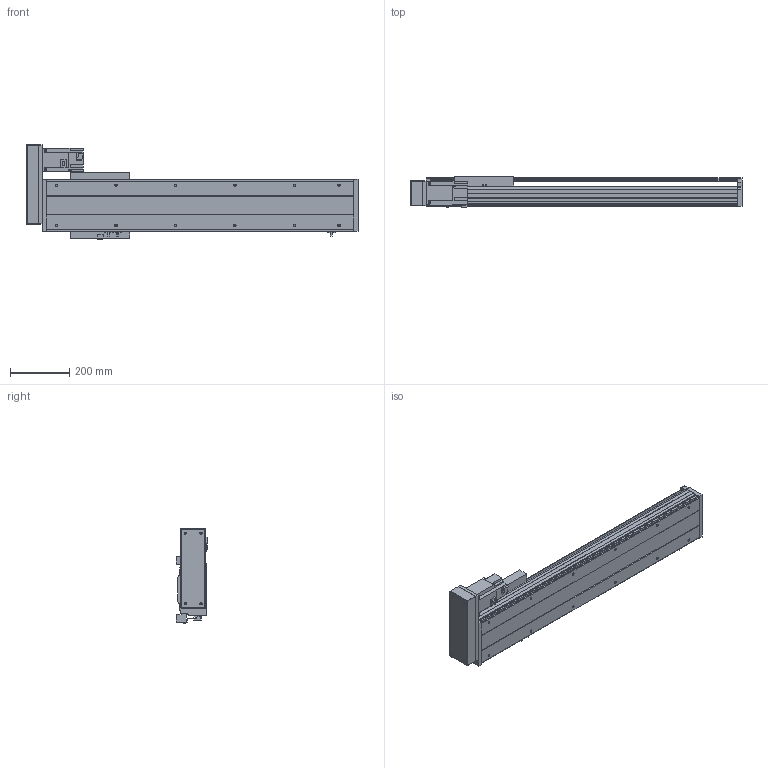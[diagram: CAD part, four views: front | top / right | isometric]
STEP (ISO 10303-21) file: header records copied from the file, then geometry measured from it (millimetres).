
FILE_DESCRIPTION(/* description */ ('STEP AP214'),/* implementation_level */ '2;1');
FILE_NAME(/* name */ 'PSS200-L10-S700-BL-T75-C1-N(0)',/* time_stamp */ '2022-06-06T04:50:09+02:00',/* author */ ('License CC BY-ND 4.0'),/* organization */ ('CADENAS'),/* preprocessor_version */ 'ST-DEVELOPER v18.102',/* originating_system */ 'PARTsolutions',/* authorisation */ ' ');
FILE_SCHEMA (('AUTOMOTIVE_DESIGN {1 0 10303 214 3 1 1}'));
Length unit declared in the file: millimetre
Products named in the file (8): PSS200-L10-S700-BL-T75-C1-N(0); PSS200-S700-BL-N_S; T75-p1; PSS200BL-N_h; PSS200-N_sensor; PSS200-BL-C1-N_sl; PSS200-N_Q; PSS200-S700-BL-C1-N_body
Assembly tree (9 placements, depth 2):
  PSS200-L10-S700-BL-T75-C1-N(0)
    PSS200-S700-BL-N_S
    T75-p1
    PSS200BL-N_h
    PSS200-N_sensor  x3
    PSS200-BL-C1-N_sl
    PSS200-N_Q
    PSS200-S700-BL-C1-N_body
Bounding box: 1116.85 x 105.3 x 317.86 mm (x, y, z)
Volume: 8083927.6 mm3; surface area: 1812126.3 mm2
Topology: 9 solids, 9 shells, 604 faces, 1609 edges, 1062 vertices
Faces by surface type: plane 466, cylinder 114, cone 20, sphere 4
Full cylindrical faces by diameter (mm): 4 x2, 4.5 x4, 6 x7, 6.647 x16, 7.4 x4, 8 x8, 10 x6, 25 x1, 40 x1, 67 x1
Entity records: 16725 total; most frequent: CARTESIAN_POINT 2875, DIRECTION 2772, ORIENTED_EDGE 2738, EDGE_CURVE 1369, LINE 1090, VECTOR 1090, VERTEX_POINT 944, AXIS2_PLACEMENT_3D 841
